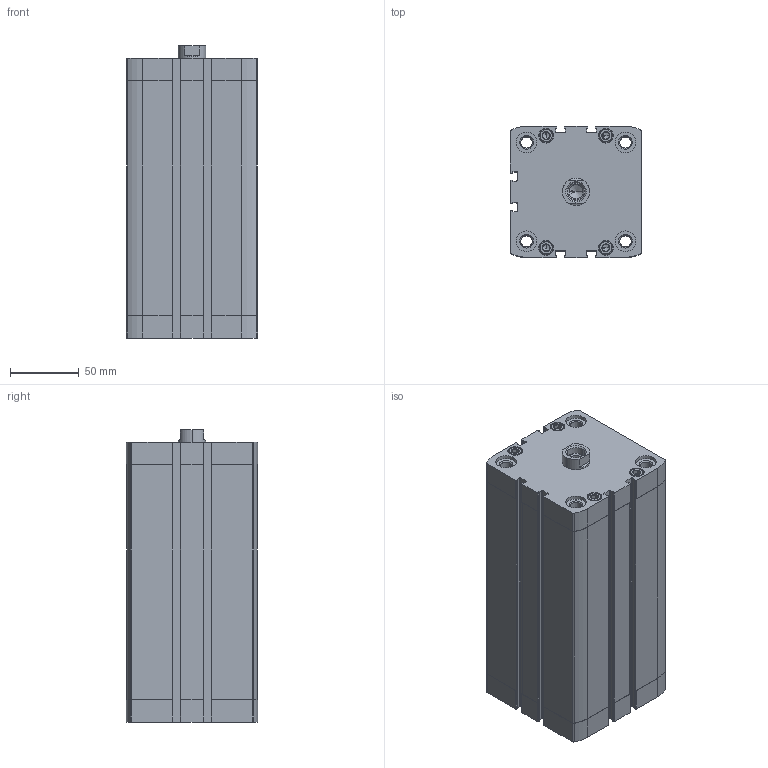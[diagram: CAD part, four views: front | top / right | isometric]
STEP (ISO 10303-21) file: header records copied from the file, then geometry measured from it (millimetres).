
FILE_DESCRIPTION (( 'STEP AP203' ), '1' );
FILE_NAME ('CCN80-150F.STEP', '2017-04-05T19:52:25', ( '' ), ( '' ), 'SwSTEP 2.0', 'SolidWorks 2016', '' );
FILE_SCHEMA (( 'CONFIG_CONTROL_DESIGN' ));
Length unit declared in the file: millimetre
Products named in the file (3): CCN80-150F; CCN-150---(Z); CCN-150_(KS)
Assembly tree (2 placements, depth 2):
  CCN80-150F
    CCN-150---(Z)
    CCN-150_(KS)
Bounding box: 95.5 x 95.5 x 212.9 mm (x, y, z)
Volume: 1034486.5 mm3; surface area: 214518.5 mm2
Topology: 2 solids, 2 shells, 487 faces, 1240 edges, 787 vertices
Faces by surface type: plane 227, cylinder 186, cone 74
Entity records: 15377 total; most frequent: CARTESIAN_POINT 3043, DIRECTION 2648, ORIENTED_EDGE 2444, EDGE_CURVE 1222, AXIS2_PLACEMENT_3D 992, VERTEX_POINT 787, LINE 664, VECTOR 664
